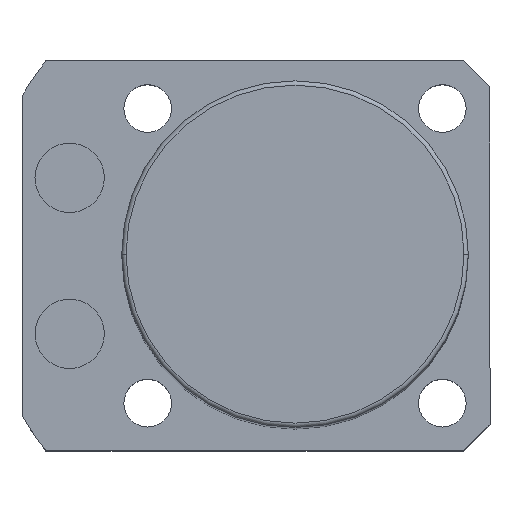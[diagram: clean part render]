
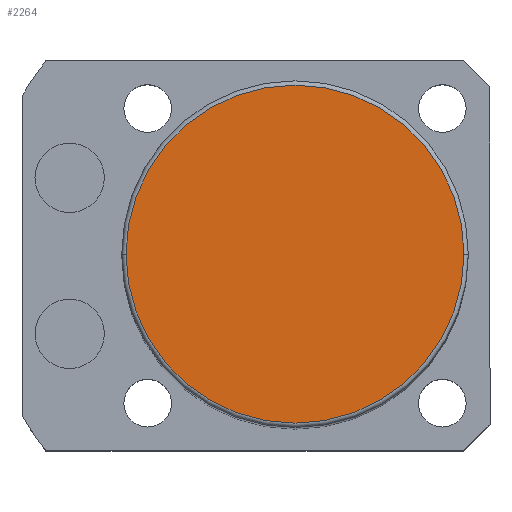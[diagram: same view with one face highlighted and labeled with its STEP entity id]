
A CAD part, top view. The second image highlights one B-rep face of the part: STEP entity #2264.
In plain terms, the highlighted planar face has unit normal (0, 0, 1).
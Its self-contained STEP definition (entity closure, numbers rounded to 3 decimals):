
#89 = ORIENTED_EDGE ( 'NONE', *, *, #930, .T. ) ;
#201 = DIRECTION ( 'NONE',  ( 1., 0., 0. ) ) ;
#269 = AXIS2_PLACEMENT_3D ( 'NONE', #599, #1904, #783 ) ;
#284 = CIRCLE ( 'NONE', #644, 19.5 ) ;
#443 = CARTESIAN_POINT ( 'NONE',  ( 19.5, 0., 123.5 ) ) ;
#452 = AXIS2_PLACEMENT_3D ( 'NONE', #1232, #1449, #1621 ) ;
#599 = CARTESIAN_POINT ( 'NONE',  ( 0., 0., 123.5 ) ) ;
#644 = AXIS2_PLACEMENT_3D ( 'NONE', #872, #1997, #201 ) ;
#685 = ORIENTED_EDGE ( 'NONE', *, *, #1451, .T. ) ;
#783 = DIRECTION ( 'NONE',  ( 1., 0., 0. ) ) ;
#872 = CARTESIAN_POINT ( 'NONE',  ( 0., 0., 123.5 ) ) ;
#930 = EDGE_CURVE ( 'NONE', #1683, #1493, #284, .T. ) ;
#1022 = CARTESIAN_POINT ( 'NONE',  ( -19.5, 0., 123.5 ) ) ;
#1232 = CARTESIAN_POINT ( 'NONE',  ( 0., 0., 123.5 ) ) ;
#1282 = FACE_OUTER_BOUND ( 'NONE', #2361, .T. ) ;
#1449 = DIRECTION ( 'NONE',  ( 0., 0., 1. ) ) ;
#1451 = EDGE_CURVE ( 'NONE', #1493, #1683, #2327, .T. ) ;
#1493 = VERTEX_POINT ( 'NONE', #443 ) ;
#1610 = PLANE ( 'NONE',  #452 ) ;
#1621 = DIRECTION ( 'NONE',  ( 1., 0., 0. ) ) ;
#1683 = VERTEX_POINT ( 'NONE', #1022 ) ;
#1904 = DIRECTION ( 'NONE',  ( 0., 0., 1. ) ) ;
#1997 = DIRECTION ( 'NONE',  ( 0., 0., 1. ) ) ;
#2264 = ADVANCED_FACE ( 'NONE', ( #1282 ), #1610, .T. ) ;
#2327 = CIRCLE ( 'NONE', #269, 19.5 ) ;
#2361 = EDGE_LOOP ( 'NONE', ( #685, #89 ) ) ;
